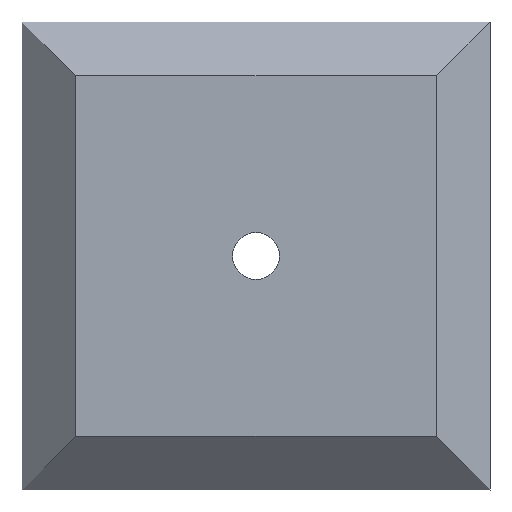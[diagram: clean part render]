
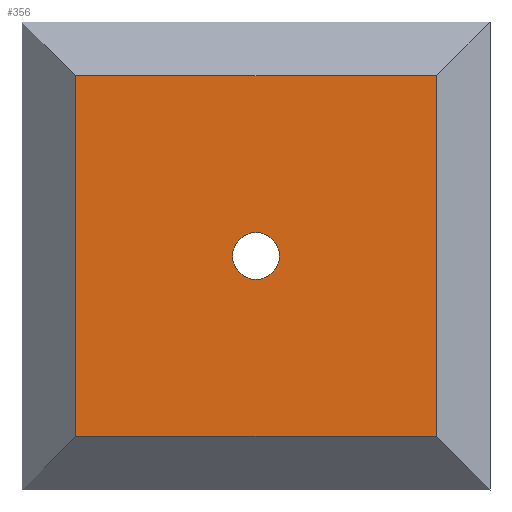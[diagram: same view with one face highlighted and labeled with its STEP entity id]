
A CAD part, front view. The second image highlights one B-rep face of the part: STEP entity #356.
In plain terms, the highlighted planar face has unit normal (0, -1, 0) as drawn and (0, 1, 0) by its records, which use the part's own axes.
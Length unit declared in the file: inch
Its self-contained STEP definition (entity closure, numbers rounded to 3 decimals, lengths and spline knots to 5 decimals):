
#23 = VERTEX_POINT ( 'NONE', #487 ) ;
#25 = DIRECTION ( 'NONE',  ( 1., 0., 0. ) ) ;
#49 = CIRCLE ( 'NONE', #458, 1.2 ) ;
#51 = DIRECTION ( 'NONE',  ( 0., 0., -1. ) ) ;
#58 = CARTESIAN_POINT ( 'NONE',  ( 18.5, 0.475, 0. ) ) ;
#60 = CARTESIAN_POINT ( 'NONE',  ( 0., 0.475, 0. ) ) ;
#93 = VERTEX_POINT ( 'NONE', #301 ) ;
#100 = EDGE_CURVE ( 'NONE', #93, #23, #431, .T. ) ;
#103 = CARTESIAN_POINT ( 'NONE',  ( 9.25, 0.475, -9.25 ) ) ;
#134 = CARTESIAN_POINT ( 'NONE',  ( 0., 0.475, -18.5 ) ) ;
#151 = EDGE_CURVE ( 'NONE', #377, #283, #222, .T. ) ;
#158 = EDGE_LOOP ( 'NONE', ( #200, #512, #359, #455 ) ) ;
#159 = CARTESIAN_POINT ( 'NONE',  ( 0., 0.475, 0. ) ) ;
#181 = EDGE_CURVE ( 'NONE', #237, #249, #385, .T. ) ;
#192 = EDGE_CURVE ( 'NONE', #23, #93, #49, .T. ) ;
#200 = ORIENTED_EDGE ( 'NONE', *, *, #181, .T. ) ;
#203 = VECTOR ( 'NONE', #25, 39.37008 ) ;
#204 = DIRECTION ( 'NONE',  ( 0., 0., 1. ) ) ;
#207 = ORIENTED_EDGE ( 'NONE', *, *, #100, .F. ) ;
#214 = LINE ( 'NONE', #134, #236 ) ;
#220 = EDGE_CURVE ( 'NONE', #249, #377, #492, .T. ) ;
#221 = DIRECTION ( 'NONE',  ( 0., 0., -1. ) ) ;
#222 = LINE ( 'NONE', #58, #279 ) ;
#230 = DIRECTION ( 'NONE',  ( 0., -1., 0. ) ) ;
#236 = VECTOR ( 'NONE', #291, 39.37008 ) ;
#237 = VERTEX_POINT ( 'NONE', #450 ) ;
#249 = VERTEX_POINT ( 'NONE', #159 ) ;
#253 = VECTOR ( 'NONE', #204, 39.37008 ) ;
#270 = PLANE ( 'NONE',  #347 ) ;
#279 = VECTOR ( 'NONE', #51, 39.37008 ) ;
#283 = VERTEX_POINT ( 'NONE', #324 ) ;
#291 = DIRECTION ( 'NONE',  ( -1., 0., 0. ) ) ;
#297 = CARTESIAN_POINT ( 'NONE',  ( 18.5, 0.475, 0. ) ) ;
#301 = CARTESIAN_POINT ( 'NONE',  ( 9.25, 0.475, -10.45 ) ) ;
#313 = AXIS2_PLACEMENT_3D ( 'NONE', #103, #526, #387 ) ;
#324 = CARTESIAN_POINT ( 'NONE',  ( 18.5, 0.475, -18.5 ) ) ;
#327 = EDGE_CURVE ( 'NONE', #283, #237, #214, .T. ) ;
#347 = AXIS2_PLACEMENT_3D ( 'NONE', #439, #230, #221 ) ;
#356 = ADVANCED_FACE ( 'NONE', ( #430, #480 ), #270, .F. ) ;
#359 = ORIENTED_EDGE ( 'NONE', *, *, #151, .T. ) ;
#361 = ORIENTED_EDGE ( 'NONE', *, *, #192, .F. ) ;
#377 = VERTEX_POINT ( 'NONE', #297 ) ;
#385 = LINE ( 'NONE', #550, #253 ) ;
#387 = DIRECTION ( 'NONE',  ( 0., 0., 1. ) ) ;
#430 = FACE_BOUND ( 'NONE', #495, .T. ) ;
#431 = CIRCLE ( 'NONE', #313, 1.2 ) ;
#439 = CARTESIAN_POINT ( 'NONE',  ( 0., 0.475, 0. ) ) ;
#447 = CARTESIAN_POINT ( 'NONE',  ( 9.25, 0.475, -9.25 ) ) ;
#450 = CARTESIAN_POINT ( 'NONE',  ( 0., 0.475, -18.5 ) ) ;
#454 = DIRECTION ( 'NONE',  ( 0., 0., 1. ) ) ;
#455 = ORIENTED_EDGE ( 'NONE', *, *, #327, .T. ) ;
#458 = AXIS2_PLACEMENT_3D ( 'NONE', #447, #497, #454 ) ;
#480 = FACE_OUTER_BOUND ( 'NONE', #158, .T. ) ;
#487 = CARTESIAN_POINT ( 'NONE',  ( 9.25, 0.475, -8.05 ) ) ;
#492 = LINE ( 'NONE', #60, #203 ) ;
#495 = EDGE_LOOP ( 'NONE', ( #361, #207 ) ) ;
#497 = DIRECTION ( 'NONE',  ( 0., 1., 0. ) ) ;
#512 = ORIENTED_EDGE ( 'NONE', *, *, #220, .T. ) ;
#526 = DIRECTION ( 'NONE',  ( 0., 1., 0. ) ) ;
#550 = CARTESIAN_POINT ( 'NONE',  ( 0., 0.475, 0. ) ) ;
